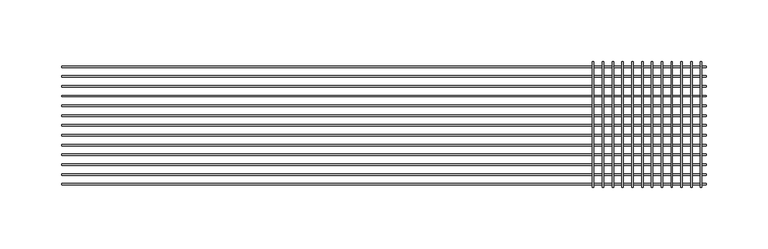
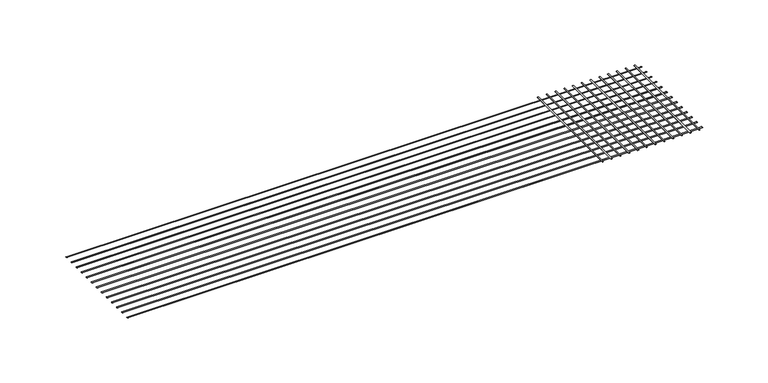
"""IFC4 building model written with IfcOpenShell, lengths in millimetres: proxy geometry, CRAi Generic Model Mesh Piece Face Based : CRAi Generic Model Mesh Piece Face Based."""

from ifc_helpers import new_model, si_unit, point, frame, origin, place, context, project, spatial, ellipse_curve, trimmed, source, transform, mapped, element, save
from ifc_brep_helpers import plane_surface, extruded_surface, advanced_brep


def generic_models_3fb7d6d8(model_context):
    return source(origin(), model_context, "Body", "AdvancedBrep", [
        advanced_brep(
        [(168.4734375, 50.8, -2.5796875), (169.6640625, 50.8, -2.5796875), (168.4734375, -50.8, -2.5796875), (169.6640625, -50.8, -2.5796875)],
        [
            (0, 1, ellipse_curve(frame((169.06875, 50.8, -2.5796875), z_axis=(0.0, 1.0, 0.0), x_axis=(1.0, 0.0, 0.0)), 0.5953125, 0.1984375)),
            (1, 0, ellipse_curve(frame((169.06875, 50.8, -2.5796875), z_axis=(0.0, 1.0, 0.0), x_axis=(1.0, 0.0, 0.0)), 0.5953125, 0.1984375)),
            (2, 3, ellipse_curve(frame((169.06875, -50.8, -2.5796875), z_axis=(0.0, -1.0, 0.0), x_axis=(1.0, 0.0, 0.0)), 0.5953125, 0.1984375)),
            (3, 2, ellipse_curve(frame((169.06875, -50.8, -2.5796875), z_axis=(0.0, -1.0, 0.0), x_axis=(1.0, 0.0, 0.0)), 0.5953125, 0.1984375)),
            (1, 3),
            (2, 0),
        ],
        [
            plane_surface(frame((169.06875, 50.8, -2.5796875), z_axis=(0.0, 1.0, 0.0), x_axis=(0.0, 0.0, 1.0))),
            plane_surface(frame((169.06875, -50.8, -2.5796875), z_axis=(0.0, -1.0, 0.0), x_axis=(0.0, 0.0, 1.0))),
            extruded_surface(trimmed(ellipse_curve(frame((169.06875, 50.8, -2.5796875), z_axis=(0.0, -1.0, 0.0), x_axis=(1.0, 0.0, 0.0)), 0.5953125, 0.1984375), [point((168.4734375, 50.8, -2.5796875))], [point((169.6640625, 50.8, -2.5796875))], True, "CARTESIAN"), (0.0, -101.6, 0.0), 101.6),
            extruded_surface(trimmed(ellipse_curve(frame((169.06875, 50.8, -2.5796875), z_axis=(0.0, -1.0, 0.0), x_axis=(1.0, 0.0, 0.0)), 0.5953125, 0.1984375), [point((169.6640625, 50.8, -2.5796875))], [point((168.4734375, 50.8, -2.5796875))], True, "CARTESIAN"), (0.0, -101.6, 0.0), 101.6),
        ],
        [
            (0, [[1, 2]]),
            (1, [[3, 4]]),
            (2, [[5, -3, 6, -2]]),
            (3, [[-6, -4, -5, -1]]),
        ],
    ),
        advanced_brep(
        [(176.4109375, 50.8, -2.5796875), (177.6015625, 50.8, -2.5796875), (176.4109375, -50.8, -2.5796875), (177.6015625, -50.8, -2.5796875)],
        [
            (0, 1, ellipse_curve(frame((177.00625, 50.8, -2.5796875), z_axis=(0.0, 1.0, 0.0), x_axis=(1.0, 0.0, 0.0)), 0.5953125, 0.1984375)),
            (1, 0, ellipse_curve(frame((177.00625, 50.8, -2.5796875), z_axis=(0.0, 1.0, 0.0), x_axis=(1.0, 0.0, 0.0)), 0.5953125, 0.1984375)),
            (2, 3, ellipse_curve(frame((177.00625, -50.8, -2.5796875), z_axis=(0.0, -1.0, 0.0), x_axis=(1.0, 0.0, 0.0)), 0.5953125, 0.1984375)),
            (3, 2, ellipse_curve(frame((177.00625, -50.8, -2.5796875), z_axis=(0.0, -1.0, 0.0), x_axis=(1.0, 0.0, 0.0)), 0.5953125, 0.1984375)),
            (1, 3),
            (2, 0),
        ],
        [
            plane_surface(frame((177.00625, 50.8, -2.5796875), z_axis=(0.0, 1.0, 0.0), x_axis=(0.0, 0.0, 1.0))),
            plane_surface(frame((177.00625, -50.8, -2.5796875), z_axis=(0.0, -1.0, 0.0), x_axis=(0.0, 0.0, 1.0))),
            extruded_surface(trimmed(ellipse_curve(frame((177.00625, 50.8, -2.5796875), z_axis=(0.0, -1.0, 0.0), x_axis=(1.0, 0.0, 0.0)), 0.5953125, 0.1984375), [point((176.4109375, 50.8, -2.5796875))], [point((177.6015625, 50.8, -2.5796875))], True, "CARTESIAN"), (0.0, -101.6, 0.0), 101.6),
            extruded_surface(trimmed(ellipse_curve(frame((177.00625, 50.8, -2.5796875), z_axis=(0.0, -1.0, 0.0), x_axis=(1.0, 0.0, 0.0)), 0.5953125, 0.1984375), [point((177.6015625, 50.8, -2.5796875))], [point((176.4109375, 50.8, -2.5796875))], True, "CARTESIAN"), (0.0, -101.6, 0.0), 101.6),
        ],
        [
            (0, [[1, 2]]),
            (1, [[3, 4]]),
            (2, [[5, -3, 6, -2]]),
            (3, [[-6, -4, -5, -1]]),
        ],
    ),
        advanced_brep(
        [(184.3484375, 50.8, -2.5796875), (185.5390625, 50.8, -2.5796875), (184.3484375, -50.8, -2.5796875), (185.5390625, -50.8, -2.5796875)],
        [
            (0, 1, ellipse_curve(frame((184.94375, 50.8, -2.5796875), z_axis=(0.0, 1.0, 0.0), x_axis=(1.0, 0.0, 0.0)), 0.5953125, 0.1984375)),
            (1, 0, ellipse_curve(frame((184.94375, 50.8, -2.5796875), z_axis=(0.0, 1.0, 0.0), x_axis=(1.0, 0.0, 0.0)), 0.5953125, 0.1984375)),
            (2, 3, ellipse_curve(frame((184.94375, -50.8, -2.5796875), z_axis=(0.0, -1.0, 0.0), x_axis=(1.0, 0.0, 0.0)), 0.5953125, 0.1984375)),
            (3, 2, ellipse_curve(frame((184.94375, -50.8, -2.5796875), z_axis=(0.0, -1.0, 0.0), x_axis=(1.0, 0.0, 0.0)), 0.5953125, 0.1984375)),
            (1, 3),
            (2, 0),
        ],
        [
            plane_surface(frame((184.94375, 50.8, -2.5796875), z_axis=(0.0, 1.0, 0.0), x_axis=(0.0, 0.0, 1.0))),
            plane_surface(frame((184.94375, -50.8, -2.5796875), z_axis=(0.0, -1.0, 0.0), x_axis=(0.0, 0.0, 1.0))),
            extruded_surface(trimmed(ellipse_curve(frame((184.94375, 50.8, -2.5796875), z_axis=(0.0, -1.0, 0.0), x_axis=(1.0, 0.0, 0.0)), 0.5953125, 0.1984375), [point((184.3484375, 50.8, -2.5796875))], [point((185.5390625, 50.8, -2.5796875))], True, "CARTESIAN"), (0.0, -101.6, 0.0), 101.6),
            extruded_surface(trimmed(ellipse_curve(frame((184.94375, 50.8, -2.5796875), z_axis=(0.0, -1.0, 0.0), x_axis=(1.0, 0.0, 0.0)), 0.5953125, 0.1984375), [point((185.5390625, 50.8, -2.5796875))], [point((184.3484375, 50.8, -2.5796875))], True, "CARTESIAN"), (0.0, -101.6, 0.0), 101.6),
        ],
        [
            (0, [[1, 2]]),
            (1, [[3, 4]]),
            (2, [[5, -3, 6, -2]]),
            (3, [[-6, -4, -5, -1]]),
        ],
    ),
        advanced_brep(
        [(192.2859375, 50.8, -2.5796875), (193.4765625, 50.8, -2.5796875), (192.2859375, -50.8, -2.5796875), (193.4765625, -50.8, -2.5796875)],
        [
            (0, 1, ellipse_curve(frame((192.88125, 50.8, -2.5796875), z_axis=(0.0, 1.0, 0.0), x_axis=(1.0, 0.0, 0.0)), 0.5953125, 0.1984375)),
            (1, 0, ellipse_curve(frame((192.88125, 50.8, -2.5796875), z_axis=(0.0, 1.0, 0.0), x_axis=(1.0, 0.0, 0.0)), 0.5953125, 0.1984375)),
            (2, 3, ellipse_curve(frame((192.88125, -50.8, -2.5796875), z_axis=(0.0, -1.0, 0.0), x_axis=(1.0, 0.0, 0.0)), 0.5953125, 0.1984375)),
            (3, 2, ellipse_curve(frame((192.88125, -50.8, -2.5796875), z_axis=(0.0, -1.0, 0.0), x_axis=(1.0, 0.0, 0.0)), 0.5953125, 0.1984375)),
            (1, 3),
            (2, 0),
        ],
        [
            plane_surface(frame((192.88125, 50.8, -2.5796875), z_axis=(0.0, 1.0, 0.0), x_axis=(0.0, 0.0, 1.0))),
            plane_surface(frame((192.88125, -50.8, -2.5796875), z_axis=(0.0, -1.0, 0.0), x_axis=(0.0, 0.0, 1.0))),
            extruded_surface(trimmed(ellipse_curve(frame((192.88125, 50.8, -2.5796875), z_axis=(0.0, -1.0, 0.0), x_axis=(1.0, 0.0, 0.0)), 0.5953125, 0.1984375), [point((192.2859375, 50.8, -2.5796875))], [point((193.4765625, 50.8, -2.5796875))], True, "CARTESIAN"), (0.0, -101.6, 0.0), 101.6),
            extruded_surface(trimmed(ellipse_curve(frame((192.88125, 50.8, -2.5796875), z_axis=(0.0, -1.0, 0.0), x_axis=(1.0, 0.0, 0.0)), 0.5953125, 0.1984375), [point((193.4765625, 50.8, -2.5796875))], [point((192.2859375, 50.8, -2.5796875))], True, "CARTESIAN"), (0.0, -101.6, 0.0), 101.6),
        ],
        [
            (0, [[1, 2]]),
            (1, [[3, 4]]),
            (2, [[5, -3, 6, -2]]),
            (3, [[-6, -4, -5, -1]]),
        ],
    ),
        advanced_brep(
        [(200.2234375, 50.8, -2.5796875), (201.4140625, 50.8, -2.5796875), (200.2234375, -50.8, -2.5796875), (201.4140625, -50.8, -2.5796875)],
        [
            (0, 1, ellipse_curve(frame((200.81875, 50.8, -2.5796875), z_axis=(0.0, 1.0, 0.0), x_axis=(1.0, 0.0, 0.0)), 0.5953125, 0.1984375)),
            (1, 0, ellipse_curve(frame((200.81875, 50.8, -2.5796875), z_axis=(0.0, 1.0, 0.0), x_axis=(1.0, 0.0, 0.0)), 0.5953125, 0.1984375)),
            (2, 3, ellipse_curve(frame((200.81875, -50.8, -2.5796875), z_axis=(0.0, -1.0, 0.0), x_axis=(1.0, 0.0, 0.0)), 0.5953125, 0.1984375)),
            (3, 2, ellipse_curve(frame((200.81875, -50.8, -2.5796875), z_axis=(0.0, -1.0, 0.0), x_axis=(1.0, 0.0, 0.0)), 0.5953125, 0.1984375)),
            (1, 3),
            (2, 0),
        ],
        [
            plane_surface(frame((200.81875, 50.8, -2.5796875), z_axis=(0.0, 1.0, 0.0), x_axis=(0.0, 0.0, 1.0))),
            plane_surface(frame((200.81875, -50.8, -2.5796875), z_axis=(0.0, -1.0, 0.0), x_axis=(0.0, 0.0, 1.0))),
            extruded_surface(trimmed(ellipse_curve(frame((200.81875, 50.8, -2.5796875), z_axis=(0.0, -1.0, 0.0), x_axis=(1.0, 0.0, 0.0)), 0.5953125, 0.1984375), [point((200.2234375, 50.8, -2.5796875))], [point((201.4140625, 50.8, -2.5796875))], True, "CARTESIAN"), (0.0, -101.6, 0.0), 101.6),
            extruded_surface(trimmed(ellipse_curve(frame((200.81875, 50.8, -2.5796875), z_axis=(0.0, -1.0, 0.0), x_axis=(1.0, 0.0, 0.0)), 0.5953125, 0.1984375), [point((201.4140625, 50.8, -2.5796875))], [point((200.2234375, 50.8, -2.5796875))], True, "CARTESIAN"), (0.0, -101.6, 0.0), 101.6),
        ],
        [
            (0, [[1, 2]]),
            (1, [[3, 4]]),
            (2, [[5, -3, 6, -2]]),
            (3, [[-6, -4, -5, -1]]),
        ],
    ),
        advanced_brep(
        [(208.1609375, 50.8, -2.5796875), (209.3515625, 50.8, -2.5796875), (208.1609375, -50.8, -2.5796875), (209.3515625, -50.8, -2.5796875)],
        [
            (0, 1, ellipse_curve(frame((208.75625, 50.8, -2.5796875), z_axis=(0.0, 1.0, 0.0), x_axis=(1.0, 0.0, 0.0)), 0.5953125, 0.1984375)),
            (1, 0, ellipse_curve(frame((208.75625, 50.8, -2.5796875), z_axis=(0.0, 1.0, 0.0), x_axis=(1.0, 0.0, 0.0)), 0.5953125, 0.1984375)),
            (2, 3, ellipse_curve(frame((208.75625, -50.8, -2.5796875), z_axis=(0.0, -1.0, 0.0), x_axis=(1.0, 0.0, 0.0)), 0.5953125, 0.1984375)),
            (3, 2, ellipse_curve(frame((208.75625, -50.8, -2.5796875), z_axis=(0.0, -1.0, 0.0), x_axis=(1.0, 0.0, 0.0)), 0.5953125, 0.1984375)),
            (1, 3),
            (2, 0),
        ],
        [
            plane_surface(frame((208.75625, 50.8, -2.5796875), z_axis=(0.0, 1.0, 0.0), x_axis=(0.0, 0.0, 1.0))),
            plane_surface(frame((208.75625, -50.8, -2.5796875), z_axis=(0.0, -1.0, 0.0), x_axis=(0.0, 0.0, 1.0))),
            extruded_surface(trimmed(ellipse_curve(frame((208.75625, 50.8, -2.5796875), z_axis=(0.0, -1.0, 0.0), x_axis=(1.0, 0.0, 0.0)), 0.5953125, 0.1984375), [point((208.1609375, 50.8, -2.5796875))], [point((209.3515625, 50.8, -2.5796875))], True, "CARTESIAN"), (0.0, -101.6, 0.0), 101.6),
            extruded_surface(trimmed(ellipse_curve(frame((208.75625, 50.8, -2.5796875), z_axis=(0.0, -1.0, 0.0), x_axis=(1.0, 0.0, 0.0)), 0.5953125, 0.1984375), [point((209.3515625, 50.8, -2.5796875))], [point((208.1609375, 50.8, -2.5796875))], True, "CARTESIAN"), (0.0, -101.6, 0.0), 101.6),
        ],
        [
            (0, [[1, 2]]),
            (1, [[3, 4]]),
            (2, [[5, -3, 6, -2]]),
            (3, [[-6, -4, -5, -1]]),
        ],
    ),
        advanced_brep(
        [(216.0984375, 50.8, -2.5796875), (217.2890625, 50.8, -2.5796875), (216.0984375, -50.8, -2.5796875), (217.2890625, -50.8, -2.5796875)],
        [
            (0, 1, ellipse_curve(frame((216.69375, 50.8, -2.5796875), z_axis=(0.0, 1.0, 0.0), x_axis=(1.0, 0.0, 0.0)), 0.5953125, 0.1984375)),
            (1, 0, ellipse_curve(frame((216.69375, 50.8, -2.5796875), z_axis=(0.0, 1.0, 0.0), x_axis=(1.0, 0.0, 0.0)), 0.5953125, 0.1984375)),
            (2, 3, ellipse_curve(frame((216.69375, -50.8, -2.5796875), z_axis=(0.0, -1.0, 0.0), x_axis=(1.0, 0.0, 0.0)), 0.5953125, 0.1984375)),
            (3, 2, ellipse_curve(frame((216.69375, -50.8, -2.5796875), z_axis=(0.0, -1.0, 0.0), x_axis=(1.0, 0.0, 0.0)), 0.5953125, 0.1984375)),
            (1, 3),
            (2, 0),
        ],
        [
            plane_surface(frame((216.69375, 50.8, -2.5796875), z_axis=(0.0, 1.0, 0.0), x_axis=(0.0, 0.0, 1.0))),
            plane_surface(frame((216.69375, -50.8, -2.5796875), z_axis=(0.0, -1.0, 0.0), x_axis=(0.0, 0.0, 1.0))),
            extruded_surface(trimmed(ellipse_curve(frame((216.69375, 50.8, -2.5796875), z_axis=(0.0, -1.0, 0.0), x_axis=(1.0, 0.0, 0.0)), 0.5953125, 0.1984375), [point((216.0984375, 50.8, -2.5796875))], [point((217.2890625, 50.8, -2.5796875))], True, "CARTESIAN"), (0.0, -101.6, 0.0), 101.6),
            extruded_surface(trimmed(ellipse_curve(frame((216.69375, 50.8, -2.5796875), z_axis=(0.0, -1.0, 0.0), x_axis=(1.0, 0.0, 0.0)), 0.5953125, 0.1984375), [point((217.2890625, 50.8, -2.5796875))], [point((216.0984375, 50.8, -2.5796875))], True, "CARTESIAN"), (0.0, -101.6, 0.0), 101.6),
        ],
        [
            (0, [[1, 2]]),
            (1, [[3, 4]]),
            (2, [[5, -3, 6, -2]]),
            (3, [[-6, -4, -5, -1]]),
        ],
    ),
        advanced_brep(
        [(224.0359375, 50.8, -2.5796875), (225.2265625, 50.8, -2.5796875), (224.0359375, -50.8, -2.5796875), (225.2265625, -50.8, -2.5796875)],
        [
            (0, 1, ellipse_curve(frame((224.63125, 50.8, -2.5796875), z_axis=(0.0, 1.0, 0.0), x_axis=(1.0, 0.0, 0.0)), 0.5953125, 0.1984375)),
            (1, 0, ellipse_curve(frame((224.63125, 50.8, -2.5796875), z_axis=(0.0, 1.0, 0.0), x_axis=(1.0, 0.0, 0.0)), 0.5953125, 0.1984375)),
            (2, 3, ellipse_curve(frame((224.63125, -50.8, -2.5796875), z_axis=(0.0, -1.0, 0.0), x_axis=(1.0, 0.0, 0.0)), 0.5953125, 0.1984375)),
            (3, 2, ellipse_curve(frame((224.63125, -50.8, -2.5796875), z_axis=(0.0, -1.0, 0.0), x_axis=(1.0, 0.0, 0.0)), 0.5953125, 0.1984375)),
            (1, 3),
            (2, 0),
        ],
        [
            plane_surface(frame((224.63125, 50.8, -2.5796875), z_axis=(0.0, 1.0, 0.0), x_axis=(0.0, 0.0, 1.0))),
            plane_surface(frame((224.63125, -50.8, -2.5796875), z_axis=(0.0, -1.0, 0.0), x_axis=(0.0, 0.0, 1.0))),
            extruded_surface(trimmed(ellipse_curve(frame((224.63125, 50.8, -2.5796875), z_axis=(0.0, -1.0, 0.0), x_axis=(1.0, 0.0, 0.0)), 0.5953125, 0.1984375), [point((224.0359375, 50.8, -2.5796875))], [point((225.2265625, 50.8, -2.5796875))], True, "CARTESIAN"), (0.0, -101.6, 0.0), 101.6),
            extruded_surface(trimmed(ellipse_curve(frame((224.63125, 50.8, -2.5796875), z_axis=(0.0, -1.0, 0.0), x_axis=(1.0, 0.0, 0.0)), 0.5953125, 0.1984375), [point((225.2265625, 50.8, -2.5796875))], [point((224.0359375, 50.8, -2.5796875))], True, "CARTESIAN"), (0.0, -101.6, 0.0), 101.6),
        ],
        [
            (0, [[1, 2]]),
            (1, [[3, 4]]),
            (2, [[5, -3, 6, -2]]),
            (3, [[-6, -4, -5, -1]]),
        ],
    ),
        advanced_brep(
        [(231.9734375, 50.8, -2.5796875), (233.1640625, 50.8, -2.5796875), (231.9734375, -50.8, -2.5796875), (233.1640625, -50.8, -2.5796875)],
        [
            (0, 1, ellipse_curve(frame((232.56875, 50.8, -2.5796875), z_axis=(0.0, 1.0, 0.0), x_axis=(1.0, 0.0, 0.0)), 0.5953125, 0.1984375)),
            (1, 0, ellipse_curve(frame((232.56875, 50.8, -2.5796875), z_axis=(0.0, 1.0, 0.0), x_axis=(1.0, 0.0, 0.0)), 0.5953125, 0.1984375)),
            (2, 3, ellipse_curve(frame((232.56875, -50.8, -2.5796875), z_axis=(0.0, -1.0, 0.0), x_axis=(1.0, 0.0, 0.0)), 0.5953125, 0.1984375)),
            (3, 2, ellipse_curve(frame((232.56875, -50.8, -2.5796875), z_axis=(0.0, -1.0, 0.0), x_axis=(1.0, 0.0, 0.0)), 0.5953125, 0.1984375)),
            (1, 3),
            (2, 0),
        ],
        [
            plane_surface(frame((232.56875, 50.8, -2.5796875), z_axis=(0.0, 1.0, 0.0), x_axis=(0.0, 0.0, 1.0))),
            plane_surface(frame((232.56875, -50.8, -2.5796875), z_axis=(0.0, -1.0, 0.0), x_axis=(0.0, 0.0, 1.0))),
            extruded_surface(trimmed(ellipse_curve(frame((232.56875, 50.8, -2.5796875), z_axis=(0.0, -1.0, 0.0), x_axis=(1.0, 0.0, 0.0)), 0.5953125, 0.1984375), [point((231.9734375, 50.8, -2.5796875))], [point((233.1640625, 50.8, -2.5796875))], True, "CARTESIAN"), (0.0, -101.6, 0.0), 101.6),
            extruded_surface(trimmed(ellipse_curve(frame((232.56875, 50.8, -2.5796875), z_axis=(0.0, -1.0, 0.0), x_axis=(1.0, 0.0, 0.0)), 0.5953125, 0.1984375), [point((233.1640625, 50.8, -2.5796875))], [point((231.9734375, 50.8, -2.5796875))], True, "CARTESIAN"), (0.0, -101.6, 0.0), 101.6),
        ],
        [
            (0, [[1, 2]]),
            (1, [[3, 4]]),
            (2, [[5, -3, 6, -2]]),
            (3, [[-6, -4, -5, -1]]),
        ],
    ),
        advanced_brep(
        [(239.9109375, 50.8, -2.5796875), (241.1015625, 50.8, -2.5796875), (239.9109375, -50.8, -2.5796875), (241.1015625, -50.8, -2.5796875)],
        [
            (0, 1, ellipse_curve(frame((240.50625, 50.8, -2.5796875), z_axis=(0.0, 1.0, 0.0), x_axis=(1.0, 0.0, 0.0)), 0.5953125, 0.1984375)),
            (1, 0, ellipse_curve(frame((240.50625, 50.8, -2.5796875), z_axis=(0.0, 1.0, 0.0), x_axis=(1.0, 0.0, 0.0)), 0.5953125, 0.1984375)),
            (2, 3, ellipse_curve(frame((240.50625, -50.8, -2.5796875), z_axis=(0.0, -1.0, 0.0), x_axis=(1.0, 0.0, 0.0)), 0.5953125, 0.1984375)),
            (3, 2, ellipse_curve(frame((240.50625, -50.8, -2.5796875), z_axis=(0.0, -1.0, 0.0), x_axis=(1.0, 0.0, 0.0)), 0.5953125, 0.1984375)),
            (1, 3),
            (2, 0),
        ],
        [
            plane_surface(frame((240.50625, 50.8, -2.5796875), z_axis=(0.0, 1.0, 0.0), x_axis=(0.0, 0.0, 1.0))),
            plane_surface(frame((240.50625, -50.8, -2.5796875), z_axis=(0.0, -1.0, 0.0), x_axis=(0.0, 0.0, 1.0))),
            extruded_surface(trimmed(ellipse_curve(frame((240.50625, 50.8, -2.5796875), z_axis=(0.0, -1.0, 0.0), x_axis=(1.0, 0.0, 0.0)), 0.5953125, 0.1984375), [point((239.9109375, 50.8, -2.5796875))], [point((241.1015625, 50.8, -2.5796875))], True, "CARTESIAN"), (0.0, -101.6, 0.0), 101.6),
            extruded_surface(trimmed(ellipse_curve(frame((240.50625, 50.8, -2.5796875), z_axis=(0.0, -1.0, 0.0), x_axis=(1.0, 0.0, 0.0)), 0.5953125, 0.1984375), [point((241.1015625, 50.8, -2.5796875))], [point((239.9109375, 50.8, -2.5796875))], True, "CARTESIAN"), (0.0, -101.6, 0.0), 101.6),
        ],
        [
            (0, [[1, 2]]),
            (1, [[3, 4]]),
            (2, [[5, -3, 6, -2]]),
            (3, [[-6, -4, -5, -1]]),
        ],
    ),
        advanced_brep(
        [(247.8484375, 50.8, -2.5796875), (249.0390625, 50.8, -2.5796875), (247.8484375, -50.8, -2.5796875), (249.0390625, -50.8, -2.5796875)],
        [
            (0, 1, ellipse_curve(frame((248.44375, 50.8, -2.5796875), z_axis=(0.0, 1.0, 0.0), x_axis=(1.0, 0.0, 0.0)), 0.5953125, 0.1984375)),
            (1, 0, ellipse_curve(frame((248.44375, 50.8, -2.5796875), z_axis=(0.0, 1.0, 0.0), x_axis=(1.0, 0.0, 0.0)), 0.5953125, 0.1984375)),
            (2, 3, ellipse_curve(frame((248.44375, -50.8, -2.5796875), z_axis=(0.0, -1.0, 0.0), x_axis=(1.0, 0.0, 0.0)), 0.5953125, 0.1984375)),
            (3, 2, ellipse_curve(frame((248.44375, -50.8, -2.5796875), z_axis=(0.0, -1.0, 0.0), x_axis=(1.0, 0.0, 0.0)), 0.5953125, 0.1984375)),
            (1, 3),
            (2, 0),
        ],
        [
            plane_surface(frame((248.44375, 50.8, -2.5796875), z_axis=(0.0, 1.0, 0.0), x_axis=(0.0, 0.0, 1.0))),
            plane_surface(frame((248.44375, -50.8, -2.5796875), z_axis=(0.0, -1.0, 0.0), x_axis=(0.0, 0.0, 1.0))),
            extruded_surface(trimmed(ellipse_curve(frame((248.44375, 50.8, -2.5796875), z_axis=(0.0, -1.0, 0.0), x_axis=(1.0, 0.0, 0.0)), 0.5953125, 0.1984375), [point((247.8484375, 50.8, -2.5796875))], [point((249.0390625, 50.8, -2.5796875))], True, "CARTESIAN"), (0.0, -101.6, 0.0), 101.6),
            extruded_surface(trimmed(ellipse_curve(frame((248.44375, 50.8, -2.5796875), z_axis=(0.0, -1.0, 0.0), x_axis=(1.0, 0.0, 0.0)), 0.5953125, 0.1984375), [point((249.0390625, 50.8, -2.5796875))], [point((247.8484375, 50.8, -2.5796875))], True, "CARTESIAN"), (0.0, -101.6, 0.0), 101.6),
        ],
        [
            (0, [[1, 2]]),
            (1, [[3, 4]]),
            (2, [[5, -3, 6, -2]]),
            (3, [[-6, -4, -5, -1]]),
        ],
    ),
        advanced_brep(
        [(255.7859375, 50.8, -2.5796875), (256.9765625, 50.8, -2.5796875), (255.7859375, -50.8, -2.5796875), (256.9765625, -50.8, -2.5796875)],
        [
            (0, 1, ellipse_curve(frame((256.38125, 50.8, -2.5796875), z_axis=(0.0, 1.0, 0.0), x_axis=(1.0, 0.0, 0.0)), 0.5953125, 0.1984375)),
            (1, 0, ellipse_curve(frame((256.38125, 50.8, -2.5796875), z_axis=(0.0, 1.0, 0.0), x_axis=(1.0, 0.0, 0.0)), 0.5953125, 0.1984375)),
            (2, 3, ellipse_curve(frame((256.38125, -50.8, -2.5796875), z_axis=(0.0, -1.0, 0.0), x_axis=(1.0, 0.0, 0.0)), 0.5953125, 0.1984375)),
            (3, 2, ellipse_curve(frame((256.38125, -50.8, -2.5796875), z_axis=(0.0, -1.0, 0.0), x_axis=(1.0, 0.0, 0.0)), 0.5953125, 0.1984375)),
            (1, 3),
            (2, 0),
        ],
        [
            plane_surface(frame((256.38125, 50.8, -2.5796875), z_axis=(0.0, 1.0, 0.0), x_axis=(0.0, 0.0, 1.0))),
            plane_surface(frame((256.38125, -50.8, -2.5796875), z_axis=(0.0, -1.0, 0.0), x_axis=(0.0, 0.0, 1.0))),
            extruded_surface(trimmed(ellipse_curve(frame((256.38125, 50.8, -2.5796875), z_axis=(0.0, -1.0, 0.0), x_axis=(1.0, 0.0, 0.0)), 0.5953125, 0.1984375), [point((255.7859375, 50.8, -2.5796875))], [point((256.9765625, 50.8, -2.5796875))], True, "CARTESIAN"), (0.0, -101.6, 0.0), 101.6),
            extruded_surface(trimmed(ellipse_curve(frame((256.38125, 50.8, -2.5796875), z_axis=(0.0, -1.0, 0.0), x_axis=(1.0, 0.0, 0.0)), 0.5953125, 0.1984375), [point((256.9765625, 50.8, -2.5796875))], [point((255.7859375, 50.8, -2.5796875))], True, "CARTESIAN"), (0.0, -101.6, 0.0), 101.6),
        ],
        [
            (0, [[1, 2]]),
            (1, [[3, 4]]),
            (2, [[5, -3, 6, -2]]),
            (3, [[-6, -4, -5, -1]]),
        ],
    ),
        advanced_brep(
        [(-260.35, -49.0140625, -2.9765625), (-260.35, -47.8234375, -2.9765625), (260.35, -49.0140625, -2.9765625), (260.35, -47.8234375, -2.9765625)],
        [
            (0, 1, ellipse_curve(frame((-260.35, -48.41875, -2.9765625), z_axis=(-1.0, 0.0, 0.0), x_axis=(0.0, 1.0, 0.0)), 0.5953125, 0.1984375)),
            (1, 0, ellipse_curve(frame((-260.35, -48.41875, -2.9765625), z_axis=(-1.0, 0.0, 0.0), x_axis=(0.0, 1.0, 0.0)), 0.5953125, 0.1984375)),
            (2, 3, ellipse_curve(frame((260.35, -48.41875, -2.9765625), z_axis=(1.0, 0.0, 0.0), x_axis=(0.0, 1.0, 0.0)), 0.5953125, 0.1984375)),
            (3, 2, ellipse_curve(frame((260.35, -48.41875, -2.9765625), z_axis=(1.0, 0.0, 0.0), x_axis=(0.0, 1.0, 0.0)), 0.5953125, 0.1984375)),
            (1, 3),
            (2, 0),
        ],
        [
            plane_surface(frame((-260.35, -48.41875, -2.9765625), z_axis=(-1.0, 0.0, 0.0), x_axis=(0.0, 0.0, 1.0))),
            plane_surface(frame((260.35, -48.41875, -2.9765625), z_axis=(1.0, 0.0, 0.0), x_axis=(0.0, 0.0, 1.0))),
            extruded_surface(trimmed(ellipse_curve(frame((-260.35, -48.41875, -2.9765625), z_axis=(1.0, 0.0, 0.0), x_axis=(0.0, 1.0, 0.0)), 0.5953125, 0.1984375), [point((-260.35, -49.0140625, -2.9765625))], [point((-260.35, -47.8234375, -2.9765625))], True, "CARTESIAN"), (520.7, 0.0, 0.0), 520.7),
            extruded_surface(trimmed(ellipse_curve(frame((-260.35, -48.41875, -2.9765625), z_axis=(1.0, 0.0, 0.0), x_axis=(0.0, 1.0, 0.0)), 0.5953125, 0.1984375), [point((-260.35, -47.8234375, -2.9765625))], [point((-260.35, -49.0140625, -2.9765625))], True, "CARTESIAN"), (520.7, 0.0, 0.0), 520.7),
        ],
        [
            (0, [[1, 2]]),
            (1, [[3, 4]]),
            (2, [[5, -3, 6, -2]]),
            (3, [[-6, -4, -5, -1]]),
        ],
    ),
        advanced_brep(
        [(-260.35, -41.0765625, -2.9765625), (-260.35, -39.8859375, -2.9765625), (260.35, -41.0765625, -2.9765625), (260.35, -39.8859375, -2.9765625)],
        [
            (0, 1, ellipse_curve(frame((-260.35, -40.48125, -2.9765625), z_axis=(-1.0, 0.0, 0.0), x_axis=(0.0, 1.0, 0.0)), 0.5953125, 0.1984375)),
            (1, 0, ellipse_curve(frame((-260.35, -40.48125, -2.9765625), z_axis=(-1.0, 0.0, 0.0), x_axis=(0.0, 1.0, 0.0)), 0.5953125, 0.1984375)),
            (2, 3, ellipse_curve(frame((260.35, -40.48125, -2.9765625), z_axis=(1.0, 0.0, 0.0), x_axis=(0.0, 1.0, 0.0)), 0.5953125, 0.1984375)),
            (3, 2, ellipse_curve(frame((260.35, -40.48125, -2.9765625), z_axis=(1.0, 0.0, 0.0), x_axis=(0.0, 1.0, 0.0)), 0.5953125, 0.1984375)),
            (1, 3),
            (2, 0),
        ],
        [
            plane_surface(frame((-260.35, -40.48125, -2.9765625), z_axis=(-1.0, 0.0, 0.0), x_axis=(0.0, 0.0, 1.0))),
            plane_surface(frame((260.35, -40.48125, -2.9765625), z_axis=(1.0, 0.0, 0.0), x_axis=(0.0, 0.0, 1.0))),
            extruded_surface(trimmed(ellipse_curve(frame((-260.35, -40.48125, -2.9765625), z_axis=(1.0, 0.0, 0.0), x_axis=(0.0, 1.0, 0.0)), 0.5953125, 0.1984375), [point((-260.35, -41.0765625, -2.9765625))], [point((-260.35, -39.8859375, -2.9765625))], True, "CARTESIAN"), (520.7, 0.0, 0.0), 520.7),
            extruded_surface(trimmed(ellipse_curve(frame((-260.35, -40.48125, -2.9765625), z_axis=(1.0, 0.0, 0.0), x_axis=(0.0, 1.0, 0.0)), 0.5953125, 0.1984375), [point((-260.35, -39.8859375, -2.9765625))], [point((-260.35, -41.0765625, -2.9765625))], True, "CARTESIAN"), (520.7, 0.0, 0.0), 520.7),
        ],
        [
            (0, [[1, 2]]),
            (1, [[3, 4]]),
            (2, [[5, -3, 6, -2]]),
            (3, [[-6, -4, -5, -1]]),
        ],
    ),
        advanced_brep(
        [(-260.35, -33.1390625, -2.9765625), (-260.35, -31.9484375, -2.9765625), (260.35, -33.1390625, -2.9765625), (260.35, -31.9484375, -2.9765625)],
        [
            (0, 1, ellipse_curve(frame((-260.35, -32.54375, -2.9765625), z_axis=(-1.0, 0.0, 0.0), x_axis=(0.0, 1.0, 0.0)), 0.5953125, 0.1984375)),
            (1, 0, ellipse_curve(frame((-260.35, -32.54375, -2.9765625), z_axis=(-1.0, 0.0, 0.0), x_axis=(0.0, 1.0, 0.0)), 0.5953125, 0.1984375)),
            (2, 3, ellipse_curve(frame((260.35, -32.54375, -2.9765625), z_axis=(1.0, 0.0, 0.0), x_axis=(0.0, 1.0, 0.0)), 0.5953125, 0.1984375)),
            (3, 2, ellipse_curve(frame((260.35, -32.54375, -2.9765625), z_axis=(1.0, 0.0, 0.0), x_axis=(0.0, 1.0, 0.0)), 0.5953125, 0.1984375)),
            (1, 3),
            (2, 0),
        ],
        [
            plane_surface(frame((-260.35, -32.54375, -2.9765625), z_axis=(-1.0, 0.0, 0.0), x_axis=(0.0, 0.0, 1.0))),
            plane_surface(frame((260.35, -32.54375, -2.9765625), z_axis=(1.0, 0.0, 0.0), x_axis=(0.0, 0.0, 1.0))),
            extruded_surface(trimmed(ellipse_curve(frame((-260.35, -32.54375, -2.9765625), z_axis=(1.0, 0.0, 0.0), x_axis=(0.0, 1.0, 0.0)), 0.5953125, 0.1984375), [point((-260.35, -33.1390625, -2.9765625))], [point((-260.35, -31.9484375, -2.9765625))], True, "CARTESIAN"), (520.7, 0.0, 0.0), 520.7),
            extruded_surface(trimmed(ellipse_curve(frame((-260.35, -32.54375, -2.9765625), z_axis=(1.0, 0.0, 0.0), x_axis=(0.0, 1.0, 0.0)), 0.5953125, 0.1984375), [point((-260.35, -31.9484375, -2.9765625))], [point((-260.35, -33.1390625, -2.9765625))], True, "CARTESIAN"), (520.7, 0.0, 0.0), 520.7),
        ],
        [
            (0, [[1, 2]]),
            (1, [[3, 4]]),
            (2, [[5, -3, 6, -2]]),
            (3, [[-6, -4, -5, -1]]),
        ],
    ),
        advanced_brep(
        [(-260.35, -25.2015625, -2.9765625), (-260.35, -24.0109375, -2.9765625), (260.35, -25.2015625, -2.9765625), (260.35, -24.0109375, -2.9765625)],
        [
            (0, 1, ellipse_curve(frame((-260.35, -24.60625, -2.9765625), z_axis=(-1.0, 0.0, 0.0), x_axis=(0.0, 1.0, 0.0)), 0.5953125, 0.1984375)),
            (1, 0, ellipse_curve(frame((-260.35, -24.60625, -2.9765625), z_axis=(-1.0, 0.0, 0.0), x_axis=(0.0, 1.0, 0.0)), 0.5953125, 0.1984375)),
            (2, 3, ellipse_curve(frame((260.35, -24.60625, -2.9765625), z_axis=(1.0, 0.0, 0.0), x_axis=(0.0, 1.0, 0.0)), 0.5953125, 0.1984375)),
            (3, 2, ellipse_curve(frame((260.35, -24.60625, -2.9765625), z_axis=(1.0, 0.0, 0.0), x_axis=(0.0, 1.0, 0.0)), 0.5953125, 0.1984375)),
            (1, 3),
            (2, 0),
        ],
        [
            plane_surface(frame((-260.35, -24.60625, -2.9765625), z_axis=(-1.0, 0.0, 0.0), x_axis=(0.0, 0.0, 1.0))),
            plane_surface(frame((260.35, -24.60625, -2.9765625), z_axis=(1.0, 0.0, 0.0), x_axis=(0.0, 0.0, 1.0))),
            extruded_surface(trimmed(ellipse_curve(frame((-260.35, -24.60625, -2.9765625), z_axis=(1.0, 0.0, 0.0), x_axis=(0.0, 1.0, 0.0)), 0.5953125, 0.1984375), [point((-260.35, -25.2015625, -2.9765625))], [point((-260.35, -24.0109375, -2.9765625))], True, "CARTESIAN"), (520.7, 0.0, 0.0), 520.7),
            extruded_surface(trimmed(ellipse_curve(frame((-260.35, -24.60625, -2.9765625), z_axis=(1.0, 0.0, 0.0), x_axis=(0.0, 1.0, 0.0)), 0.5953125, 0.1984375), [point((-260.35, -24.0109375, -2.9765625))], [point((-260.35, -25.2015625, -2.9765625))], True, "CARTESIAN"), (520.7, 0.0, 0.0), 520.7),
        ],
        [
            (0, [[1, 2]]),
            (1, [[3, 4]]),
            (2, [[5, -3, 6, -2]]),
            (3, [[-6, -4, -5, -1]]),
        ],
    ),
        advanced_brep(
        [(-260.35, -17.2640625, -2.9765625), (-260.35, -16.0734375, -2.9765625), (260.35, -17.2640625, -2.9765625), (260.35, -16.0734375, -2.9765625)],
        [
            (0, 1, ellipse_curve(frame((-260.35, -16.66875, -2.9765625), z_axis=(-1.0, 0.0, 0.0), x_axis=(0.0, 1.0, 0.0)), 0.5953125, 0.1984375)),
            (1, 0, ellipse_curve(frame((-260.35, -16.66875, -2.9765625), z_axis=(-1.0, 0.0, 0.0), x_axis=(0.0, 1.0, 0.0)), 0.5953125, 0.1984375)),
            (2, 3, ellipse_curve(frame((260.35, -16.66875, -2.9765625), z_axis=(1.0, 0.0, 0.0), x_axis=(0.0, 1.0, 0.0)), 0.5953125, 0.1984375)),
            (3, 2, ellipse_curve(frame((260.35, -16.66875, -2.9765625), z_axis=(1.0, 0.0, 0.0), x_axis=(0.0, 1.0, 0.0)), 0.5953125, 0.1984375)),
            (1, 3),
            (2, 0),
        ],
        [
            plane_surface(frame((-260.35, -16.66875, -2.9765625), z_axis=(-1.0, 0.0, 0.0), x_axis=(0.0, 0.0, 1.0))),
            plane_surface(frame((260.35, -16.66875, -2.9765625), z_axis=(1.0, 0.0, 0.0), x_axis=(0.0, 0.0, 1.0))),
            extruded_surface(trimmed(ellipse_curve(frame((-260.35, -16.66875, -2.9765625), z_axis=(1.0, 0.0, 0.0), x_axis=(0.0, 1.0, 0.0)), 0.5953125, 0.1984375), [point((-260.35, -17.2640625, -2.9765625))], [point((-260.35, -16.0734375, -2.9765625))], True, "CARTESIAN"), (520.7, 0.0, 0.0), 520.7),
            extruded_surface(trimmed(ellipse_curve(frame((-260.35, -16.66875, -2.9765625), z_axis=(1.0, 0.0, 0.0), x_axis=(0.0, 1.0, 0.0)), 0.5953125, 0.1984375), [point((-260.35, -16.0734375, -2.9765625))], [point((-260.35, -17.2640625, -2.9765625))], True, "CARTESIAN"), (520.7, 0.0, 0.0), 520.7),
        ],
        [
            (0, [[1, 2]]),
            (1, [[3, 4]]),
            (2, [[5, -3, 6, -2]]),
            (3, [[-6, -4, -5, -1]]),
        ],
    ),
        advanced_brep(
        [(-260.35, -9.3265625, -2.9765625), (-260.35, -8.1359375, -2.9765625), (260.35, -9.3265625, -2.9765625), (260.35, -8.1359375, -2.9765625)],
        [
            (0, 1, ellipse_curve(frame((-260.35, -8.73125, -2.9765625), z_axis=(-1.0, 0.0, 0.0), x_axis=(0.0, 1.0, 0.0)), 0.5953125, 0.1984375)),
            (1, 0, ellipse_curve(frame((-260.35, -8.73125, -2.9765625), z_axis=(-1.0, 0.0, 0.0), x_axis=(0.0, 1.0, 0.0)), 0.5953125, 0.1984375)),
            (2, 3, ellipse_curve(frame((260.35, -8.73125, -2.9765625), z_axis=(1.0, 0.0, 0.0), x_axis=(0.0, 1.0, 0.0)), 0.5953125, 0.1984375)),
            (3, 2, ellipse_curve(frame((260.35, -8.73125, -2.9765625), z_axis=(1.0, 0.0, 0.0), x_axis=(0.0, 1.0, 0.0)), 0.5953125, 0.1984375)),
            (1, 3),
            (2, 0),
        ],
        [
            plane_surface(frame((-260.35, -8.73125, -2.9765625), z_axis=(-1.0, 0.0, 0.0), x_axis=(0.0, 0.0, 1.0))),
            plane_surface(frame((260.35, -8.73125, -2.9765625), z_axis=(1.0, 0.0, 0.0), x_axis=(0.0, 0.0, 1.0))),
            extruded_surface(trimmed(ellipse_curve(frame((-260.35, -8.73125, -2.9765625), z_axis=(1.0, 0.0, 0.0), x_axis=(0.0, 1.0, 0.0)), 0.5953125, 0.1984375), [point((-260.35, -9.3265625, -2.9765625))], [point((-260.35, -8.1359375, -2.9765625))], True, "CARTESIAN"), (520.7, 0.0, 0.0), 520.7),
            extruded_surface(trimmed(ellipse_curve(frame((-260.35, -8.73125, -2.9765625), z_axis=(1.0, 0.0, 0.0), x_axis=(0.0, 1.0, 0.0)), 0.5953125, 0.1984375), [point((-260.35, -8.1359375, -2.9765625))], [point((-260.35, -9.3265625, -2.9765625))], True, "CARTESIAN"), (520.7, 0.0, 0.0), 520.7),
        ],
        [
            (0, [[1, 2]]),
            (1, [[3, 4]]),
            (2, [[5, -3, 6, -2]]),
            (3, [[-6, -4, -5, -1]]),
        ],
    ),
        advanced_brep(
        [(-260.35, -1.3890625, -2.9765625), (-260.35, -0.1984375, -2.9765625), (260.35, -1.3890625, -2.9765625), (260.35, -0.1984375, -2.9765625)],
        [
            (0, 1, ellipse_curve(frame((-260.35, -0.79375, -2.9765625), z_axis=(-1.0, 0.0, 0.0), x_axis=(0.0, 1.0, 0.0)), 0.5953125, 0.1984375)),
            (1, 0, ellipse_curve(frame((-260.35, -0.79375, -2.9765625), z_axis=(-1.0, 0.0, 0.0), x_axis=(0.0, 1.0, 0.0)), 0.5953125, 0.1984375)),
            (2, 3, ellipse_curve(frame((260.35, -0.79375, -2.9765625), z_axis=(1.0, 0.0, 0.0), x_axis=(0.0, 1.0, 0.0)), 0.5953125, 0.1984375)),
            (3, 2, ellipse_curve(frame((260.35, -0.79375, -2.9765625), z_axis=(1.0, 0.0, 0.0), x_axis=(0.0, 1.0, 0.0)), 0.5953125, 0.1984375)),
            (1, 3),
            (2, 0),
        ],
        [
            plane_surface(frame((-260.35, -0.79375, -2.9765625), z_axis=(-1.0, 0.0, 0.0), x_axis=(0.0, 0.0, 1.0))),
            plane_surface(frame((260.35, -0.79375, -2.9765625), z_axis=(1.0, 0.0, 0.0), x_axis=(0.0, 0.0, 1.0))),
            extruded_surface(trimmed(ellipse_curve(frame((-260.35, -0.79375, -2.9765625), z_axis=(1.0, 0.0, 0.0), x_axis=(0.0, 1.0, 0.0)), 0.5953125, 0.1984375), [point((-260.35, -1.3890625, -2.9765625))], [point((-260.35, -0.1984375, -2.9765625))], True, "CARTESIAN"), (520.7, 0.0, 0.0), 520.7),
            extruded_surface(trimmed(ellipse_curve(frame((-260.35, -0.79375, -2.9765625), z_axis=(1.0, 0.0, 0.0), x_axis=(0.0, 1.0, 0.0)), 0.5953125, 0.1984375), [point((-260.35, -0.1984375, -2.9765625))], [point((-260.35, -1.3890625, -2.9765625))], True, "CARTESIAN"), (520.7, 0.0, 0.0), 520.7),
        ],
        [
            (0, [[1, 2]]),
            (1, [[3, 4]]),
            (2, [[5, -3, 6, -2]]),
            (3, [[-6, -4, -5, -1]]),
        ],
    ),
        advanced_brep(
        [(-260.35, 6.5484375, -2.9765625), (-260.35, 7.7390625, -2.9765625), (260.35, 6.5484375, -2.9765625), (260.35, 7.7390625, -2.9765625)],
        [
            (0, 1, ellipse_curve(frame((-260.35, 7.14375, -2.9765625), z_axis=(-1.0, 0.0, 0.0), x_axis=(0.0, 1.0, 0.0)), 0.5953125, 0.1984375)),
            (1, 0, ellipse_curve(frame((-260.35, 7.14375, -2.9765625), z_axis=(-1.0, 0.0, 0.0), x_axis=(0.0, 1.0, 0.0)), 0.5953125, 0.1984375)),
            (2, 3, ellipse_curve(frame((260.35, 7.14375, -2.9765625), z_axis=(1.0, 0.0, 0.0), x_axis=(0.0, 1.0, 0.0)), 0.5953125, 0.1984375)),
            (3, 2, ellipse_curve(frame((260.35, 7.14375, -2.9765625), z_axis=(1.0, 0.0, 0.0), x_axis=(0.0, 1.0, 0.0)), 0.5953125, 0.1984375)),
            (1, 3),
            (2, 0),
        ],
        [
            plane_surface(frame((-260.35, 7.14375, -2.9765625), z_axis=(-1.0, 0.0, 0.0), x_axis=(0.0, 0.0, 1.0))),
            plane_surface(frame((260.35, 7.14375, -2.9765625), z_axis=(1.0, 0.0, 0.0), x_axis=(0.0, 0.0, 1.0))),
            extruded_surface(trimmed(ellipse_curve(frame((-260.35, 7.14375, -2.9765625), z_axis=(1.0, 0.0, 0.0), x_axis=(0.0, 1.0, 0.0)), 0.5953125, 0.1984375), [point((-260.35, 6.5484375, -2.9765625))], [point((-260.35, 7.7390625, -2.9765625))], True, "CARTESIAN"), (520.7, 0.0, 0.0), 520.7),
            extruded_surface(trimmed(ellipse_curve(frame((-260.35, 7.14375, -2.9765625), z_axis=(1.0, 0.0, 0.0), x_axis=(0.0, 1.0, 0.0)), 0.5953125, 0.1984375), [point((-260.35, 7.7390625, -2.9765625))], [point((-260.35, 6.5484375, -2.9765625))], True, "CARTESIAN"), (520.7, 0.0, 0.0), 520.7),
        ],
        [
            (0, [[1, 2]]),
            (1, [[3, 4]]),
            (2, [[5, -3, 6, -2]]),
            (3, [[-6, -4, -5, -1]]),
        ],
    ),
        advanced_brep(
        [(-260.35, 14.4859375, -2.9765625), (-260.35, 15.6765625, -2.9765625), (260.35, 14.4859375, -2.9765625), (260.35, 15.6765625, -2.9765625)],
        [
            (0, 1, ellipse_curve(frame((-260.35, 15.08125, -2.9765625), z_axis=(-1.0, 0.0, 0.0), x_axis=(0.0, 1.0, 0.0)), 0.5953125, 0.1984375)),
            (1, 0, ellipse_curve(frame((-260.35, 15.08125, -2.9765625), z_axis=(-1.0, 0.0, 0.0), x_axis=(0.0, 1.0, 0.0)), 0.5953125, 0.1984375)),
            (2, 3, ellipse_curve(frame((260.35, 15.08125, -2.9765625), z_axis=(1.0, 0.0, 0.0), x_axis=(0.0, 1.0, 0.0)), 0.5953125, 0.1984375)),
            (3, 2, ellipse_curve(frame((260.35, 15.08125, -2.9765625), z_axis=(1.0, 0.0, 0.0), x_axis=(0.0, 1.0, 0.0)), 0.5953125, 0.1984375)),
            (1, 3),
            (2, 0),
        ],
        [
            plane_surface(frame((-260.35, 15.08125, -2.9765625), z_axis=(-1.0, 0.0, 0.0), x_axis=(0.0, 0.0, 1.0))),
            plane_surface(frame((260.35, 15.08125, -2.9765625), z_axis=(1.0, 0.0, 0.0), x_axis=(0.0, 0.0, 1.0))),
            extruded_surface(trimmed(ellipse_curve(frame((-260.35, 15.08125, -2.9765625), z_axis=(1.0, 0.0, 0.0), x_axis=(0.0, 1.0, 0.0)), 0.5953125, 0.1984375), [point((-260.35, 14.4859375, -2.9765625))], [point((-260.35, 15.6765625, -2.9765625))], True, "CARTESIAN"), (520.7, 0.0, 0.0), 520.7),
            extruded_surface(trimmed(ellipse_curve(frame((-260.35, 15.08125, -2.9765625), z_axis=(1.0, 0.0, 0.0), x_axis=(0.0, 1.0, 0.0)), 0.5953125, 0.1984375), [point((-260.35, 15.6765625, -2.9765625))], [point((-260.35, 14.4859375, -2.9765625))], True, "CARTESIAN"), (520.7, 0.0, 0.0), 520.7),
        ],
        [
            (0, [[1, 2]]),
            (1, [[3, 4]]),
            (2, [[5, -3, 6, -2]]),
            (3, [[-6, -4, -5, -1]]),
        ],
    ),
        advanced_brep(
        [(-260.35, 22.4234375, -2.9765625), (-260.35, 23.6140625, -2.9765625), (260.35, 22.4234375, -2.9765625), (260.35, 23.6140625, -2.9765625)],
        [
            (0, 1, ellipse_curve(frame((-260.35, 23.01875, -2.9765625), z_axis=(-1.0, 0.0, 0.0), x_axis=(0.0, 1.0, 0.0)), 0.5953125, 0.1984375)),
            (1, 0, ellipse_curve(frame((-260.35, 23.01875, -2.9765625), z_axis=(-1.0, 0.0, 0.0), x_axis=(0.0, 1.0, 0.0)), 0.5953125, 0.1984375)),
            (2, 3, ellipse_curve(frame((260.35, 23.01875, -2.9765625), z_axis=(1.0, 0.0, 0.0), x_axis=(0.0, 1.0, 0.0)), 0.5953125, 0.1984375)),
            (3, 2, ellipse_curve(frame((260.35, 23.01875, -2.9765625), z_axis=(1.0, 0.0, 0.0), x_axis=(0.0, 1.0, 0.0)), 0.5953125, 0.1984375)),
            (1, 3),
            (2, 0),
        ],
        [
            plane_surface(frame((-260.35, 23.01875, -2.9765625), z_axis=(-1.0, 0.0, 0.0), x_axis=(0.0, 0.0, 1.0))),
            plane_surface(frame((260.35, 23.01875, -2.9765625), z_axis=(1.0, 0.0, 0.0), x_axis=(0.0, 0.0, 1.0))),
            extruded_surface(trimmed(ellipse_curve(frame((-260.35, 23.01875, -2.9765625), z_axis=(1.0, 0.0, 0.0), x_axis=(0.0, 1.0, 0.0)), 0.5953125, 0.1984375), [point((-260.35, 22.4234375, -2.9765625))], [point((-260.35, 23.6140625, -2.9765625))], True, "CARTESIAN"), (520.7, 0.0, 0.0), 520.7),
            extruded_surface(trimmed(ellipse_curve(frame((-260.35, 23.01875, -2.9765625), z_axis=(1.0, 0.0, 0.0), x_axis=(0.0, 1.0, 0.0)), 0.5953125, 0.1984375), [point((-260.35, 23.6140625, -2.9765625))], [point((-260.35, 22.4234375, -2.9765625))], True, "CARTESIAN"), (520.7, 0.0, 0.0), 520.7),
        ],
        [
            (0, [[1, 2]]),
            (1, [[3, 4]]),
            (2, [[5, -3, 6, -2]]),
            (3, [[-6, -4, -5, -1]]),
        ],
    ),
        advanced_brep(
        [(-260.35, 30.3609375, -2.9765625), (-260.35, 31.5515625, -2.9765625), (260.35, 30.3609375, -2.9765625), (260.35, 31.5515625, -2.9765625)],
        [
            (0, 1, ellipse_curve(frame((-260.35, 30.95625, -2.9765625), z_axis=(-1.0, 0.0, 0.0), x_axis=(0.0, 1.0, 0.0)), 0.5953125, 0.1984375)),
            (1, 0, ellipse_curve(frame((-260.35, 30.95625, -2.9765625), z_axis=(-1.0, 0.0, 0.0), x_axis=(0.0, 1.0, 0.0)), 0.5953125, 0.1984375)),
            (2, 3, ellipse_curve(frame((260.35, 30.95625, -2.9765625), z_axis=(1.0, 0.0, 0.0), x_axis=(0.0, 1.0, 0.0)), 0.5953125, 0.1984375)),
            (3, 2, ellipse_curve(frame((260.35, 30.95625, -2.9765625), z_axis=(1.0, 0.0, 0.0), x_axis=(0.0, 1.0, 0.0)), 0.5953125, 0.1984375)),
            (1, 3),
            (2, 0),
        ],
        [
            plane_surface(frame((-260.35, 30.95625, -2.9765625), z_axis=(-1.0, 0.0, 0.0), x_axis=(0.0, 0.0, 1.0))),
            plane_surface(frame((260.35, 30.95625, -2.9765625), z_axis=(1.0, 0.0, 0.0), x_axis=(0.0, 0.0, 1.0))),
            extruded_surface(trimmed(ellipse_curve(frame((-260.35, 30.95625, -2.9765625), z_axis=(1.0, 0.0, 0.0), x_axis=(0.0, 1.0, 0.0)), 0.5953125, 0.1984375), [point((-260.35, 30.3609375, -2.9765625))], [point((-260.35, 31.5515625, -2.9765625))], True, "CARTESIAN"), (520.7, 0.0, 0.0), 520.7),
            extruded_surface(trimmed(ellipse_curve(frame((-260.35, 30.95625, -2.9765625), z_axis=(1.0, 0.0, 0.0), x_axis=(0.0, 1.0, 0.0)), 0.5953125, 0.1984375), [point((-260.35, 31.5515625, -2.9765625))], [point((-260.35, 30.3609375, -2.9765625))], True, "CARTESIAN"), (520.7, 0.0, 0.0), 520.7),
        ],
        [
            (0, [[1, 2]]),
            (1, [[3, 4]]),
            (2, [[5, -3, 6, -2]]),
            (3, [[-6, -4, -5, -1]]),
        ],
    ),
        advanced_brep(
        [(-260.35, 38.2984375, -2.9765625), (-260.35, 39.4890625, -2.9765625), (260.35, 38.2984375, -2.9765625), (260.35, 39.4890625, -2.9765625)],
        [
            (0, 1, ellipse_curve(frame((-260.35, 38.89375, -2.9765625), z_axis=(-1.0, 0.0, 0.0), x_axis=(0.0, 1.0, 0.0)), 0.5953125, 0.1984375)),
            (1, 0, ellipse_curve(frame((-260.35, 38.89375, -2.9765625), z_axis=(-1.0, 0.0, 0.0), x_axis=(0.0, 1.0, 0.0)), 0.5953125, 0.1984375)),
            (2, 3, ellipse_curve(frame((260.35, 38.89375, -2.9765625), z_axis=(1.0, 0.0, 0.0), x_axis=(0.0, 1.0, 0.0)), 0.5953125, 0.1984375)),
            (3, 2, ellipse_curve(frame((260.35, 38.89375, -2.9765625), z_axis=(1.0, 0.0, 0.0), x_axis=(0.0, 1.0, 0.0)), 0.5953125, 0.1984375)),
            (1, 3),
            (2, 0),
        ],
        [
            plane_surface(frame((-260.35, 38.89375, -2.9765625), z_axis=(-1.0, 0.0, 0.0), x_axis=(0.0, 0.0, 1.0))),
            plane_surface(frame((260.35, 38.89375, -2.9765625), z_axis=(1.0, 0.0, 0.0), x_axis=(0.0, 0.0, 1.0))),
            extruded_surface(trimmed(ellipse_curve(frame((-260.35, 38.89375, -2.9765625), z_axis=(1.0, 0.0, 0.0), x_axis=(0.0, 1.0, 0.0)), 0.5953125, 0.1984375), [point((-260.35, 38.2984375, -2.9765625))], [point((-260.35, 39.4890625, -2.9765625))], True, "CARTESIAN"), (520.7, 0.0, 0.0), 520.7),
            extruded_surface(trimmed(ellipse_curve(frame((-260.35, 38.89375, -2.9765625), z_axis=(1.0, 0.0, 0.0), x_axis=(0.0, 1.0, 0.0)), 0.5953125, 0.1984375), [point((-260.35, 39.4890625, -2.9765625))], [point((-260.35, 38.2984375, -2.9765625))], True, "CARTESIAN"), (520.7, 0.0, 0.0), 520.7),
        ],
        [
            (0, [[1, 2]]),
            (1, [[3, 4]]),
            (2, [[5, -3, 6, -2]]),
            (3, [[-6, -4, -5, -1]]),
        ],
    ),
        advanced_brep(
        [(-260.35, 46.2359375, -2.9765625), (-260.35, 47.4265625, -2.9765625), (260.35, 46.2359375, -2.9765625), (260.35, 47.4265625, -2.9765625)],
        [
            (0, 1, ellipse_curve(frame((-260.35, 46.83125, -2.9765625), z_axis=(-1.0, 0.0, 0.0), x_axis=(0.0, 1.0, 0.0)), 0.5953125, 0.1984375)),
            (1, 0, ellipse_curve(frame((-260.35, 46.83125, -2.9765625), z_axis=(-1.0, 0.0, 0.0), x_axis=(0.0, 1.0, 0.0)), 0.5953125, 0.1984375)),
            (2, 3, ellipse_curve(frame((260.35, 46.83125, -2.9765625), z_axis=(1.0, 0.0, 0.0), x_axis=(0.0, 1.0, 0.0)), 0.5953125, 0.1984375)),
            (3, 2, ellipse_curve(frame((260.35, 46.83125, -2.9765625), z_axis=(1.0, 0.0, 0.0), x_axis=(0.0, 1.0, 0.0)), 0.5953125, 0.1984375)),
            (1, 3),
            (2, 0),
        ],
        [
            plane_surface(frame((-260.35, 46.83125, -2.9765625), z_axis=(-1.0, 0.0, 0.0), x_axis=(0.0, 0.0, 1.0))),
            plane_surface(frame((260.35, 46.83125, -2.9765625), z_axis=(1.0, 0.0, 0.0), x_axis=(0.0, 0.0, 1.0))),
            extruded_surface(trimmed(ellipse_curve(frame((-260.35, 46.83125, -2.9765625), z_axis=(1.0, 0.0, 0.0), x_axis=(0.0, 1.0, 0.0)), 0.5953125, 0.1984375), [point((-260.35, 46.2359375, -2.9765625))], [point((-260.35, 47.4265625, -2.9765625))], True, "CARTESIAN"), (520.7, 0.0, 0.0), 520.7),
            extruded_surface(trimmed(ellipse_curve(frame((-260.35, 46.83125, -2.9765625), z_axis=(1.0, 0.0, 0.0), x_axis=(0.0, 1.0, 0.0)), 0.5953125, 0.1984375), [point((-260.35, 47.4265625, -2.9765625))], [point((-260.35, 46.2359375, -2.9765625))], True, "CARTESIAN"), (520.7, 0.0, 0.0), 520.7),
        ],
        [
            (0, [[1, 2]]),
            (1, [[3, 4]]),
            (2, [[5, -3, 6, -2]]),
            (3, [[-6, -4, -5, -1]]),
        ],
    ),
    ])


if __name__ == "__main__":
    model = new_model("IFC4")
    model_context = context("Model", 3, world=origin())
    ifc_project = project(units=[si_unit("LENGTHUNIT", "METRE", prefix="MILLI")], contexts=[model_context])
    site = spatial("IfcSite", under=ifc_project)
    building = spatial("IfcBuilding", under=site)
    placement = place(None, origin())
    generic_models_shape = generic_models_3fb7d6d8(model_context)
    element("IfcBuildingElementProxy", 1, Name="CRAi Generic Model Mesh Piece Face Based : CRAi Generic Model Mesh Piece Face Based", ObjectType="CRAi Generic Model Mesh Piece Face Based : CRAi Generic Model Mesh Piece Face Based", at=placement, inside=building, context=model_context, shape_type="MappedRepresentation", body=[
        mapped(generic_models_shape, transform((0.0, 0.0, 0.0), x_axis=(1.0, 0.0, 0.0), y_axis=(0.0, 1.0, 0.0), z_axis=(0.0, 0.0, 1.0))),
    ])
    save(model, "model.ifc")
